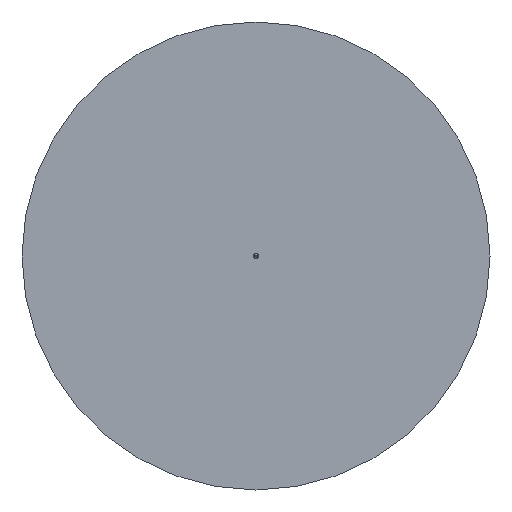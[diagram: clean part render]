
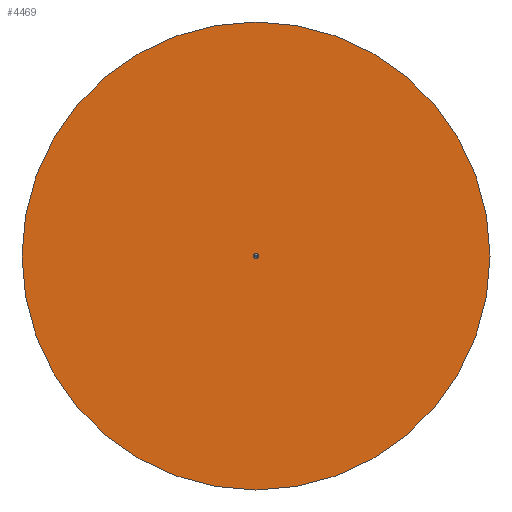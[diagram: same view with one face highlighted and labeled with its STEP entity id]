
A CAD part, front view. The second image highlights one B-rep face of the part: STEP entity #4469.
In plain terms, the highlighted planar face has unit normal (0, -1, 0).
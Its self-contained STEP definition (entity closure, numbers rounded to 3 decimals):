
#3345=CARTESIAN_POINT('',(0.7,-21.5,0.));
#3346=VERTEX_POINT('',#3345);
#3362=CARTESIAN_POINT('',(-0.7,-21.5,0.));
#3363=VERTEX_POINT('',#3362);
#3370=CARTESIAN_POINT('',(0.0,-21.5,0.));
#3371=DIRECTION('',(0.0,-1.0,0.0));
#3372=DIRECTION('',(1.0,0.0,0.0));
#3373=AXIS2_PLACEMENT_3D('',#3370,#3371,#3372);
#3374=CIRCLE('',#3373,0.7);
#3375=EDGE_CURVE('',#3363,#3346,#3374,.T.);
#3387=CARTESIAN_POINT('',(70.,-21.5,0.));
#3388=VERTEX_POINT('',#3387);
#3404=CARTESIAN_POINT('',(-70.,-21.5,0.));
#3405=VERTEX_POINT('',#3404);
#3412=CARTESIAN_POINT('',(0.0,-21.5,0.));
#3413=DIRECTION('',(0.0,-1.0,0.0));
#3414=DIRECTION('',(1.0,0.0,0.0));
#3415=AXIS2_PLACEMENT_3D('',#3412,#3413,#3414);
#3416=CIRCLE('',#3415,70.);
#3417=EDGE_CURVE('',#3388,#3405,#3416,.T.);
#4438=CARTESIAN_POINT('',(0.0,-21.5,0.));
#4439=DIRECTION('',(0.0,-1.0,0.0));
#4440=DIRECTION('',(1.0,0.0,0.0));
#4441=AXIS2_PLACEMENT_3D('',#4438,#4439,#4440);
#4442=CIRCLE('',#4441,70.);
#4443=EDGE_CURVE('',#3405,#3388,#4442,.T.);
#4450=CARTESIAN_POINT('',(35.35,-21.5,0.));
#4451=DIRECTION('',(0.0,-1.0,0.0));
#4452=DIRECTION('',(0.0,0.0,-1.0));
#4453=AXIS2_PLACEMENT_3D('',#4450,#4451,#4452);
#4454=PLANE('',#4453);
#4455=ORIENTED_EDGE('',*,*,#3417,.T.);
#4456=ORIENTED_EDGE('',*,*,#4443,.T.);
#4457=EDGE_LOOP('',(#4455,#4456));
#4458=FACE_OUTER_BOUND('',#4457,.T.);
#4459=CARTESIAN_POINT('',(0.0,-21.5,0.));
#4460=DIRECTION('',(0.0,-1.0,0.0));
#4461=DIRECTION('',(1.0,0.0,0.0));
#4462=AXIS2_PLACEMENT_3D('',#4459,#4460,#4461);
#4463=CIRCLE('',#4462,0.7);
#4464=EDGE_CURVE('',#3346,#3363,#4463,.T.);
#4465=ORIENTED_EDGE('',*,*,#4464,.F.);
#4466=ORIENTED_EDGE('',*,*,#3375,.F.);
#4467=EDGE_LOOP('',(#4465,#4466));
#4468=FACE_BOUND('',#4467,.T.);
#4469=ADVANCED_FACE('',(#4458,#4468),#4454,.T.);
